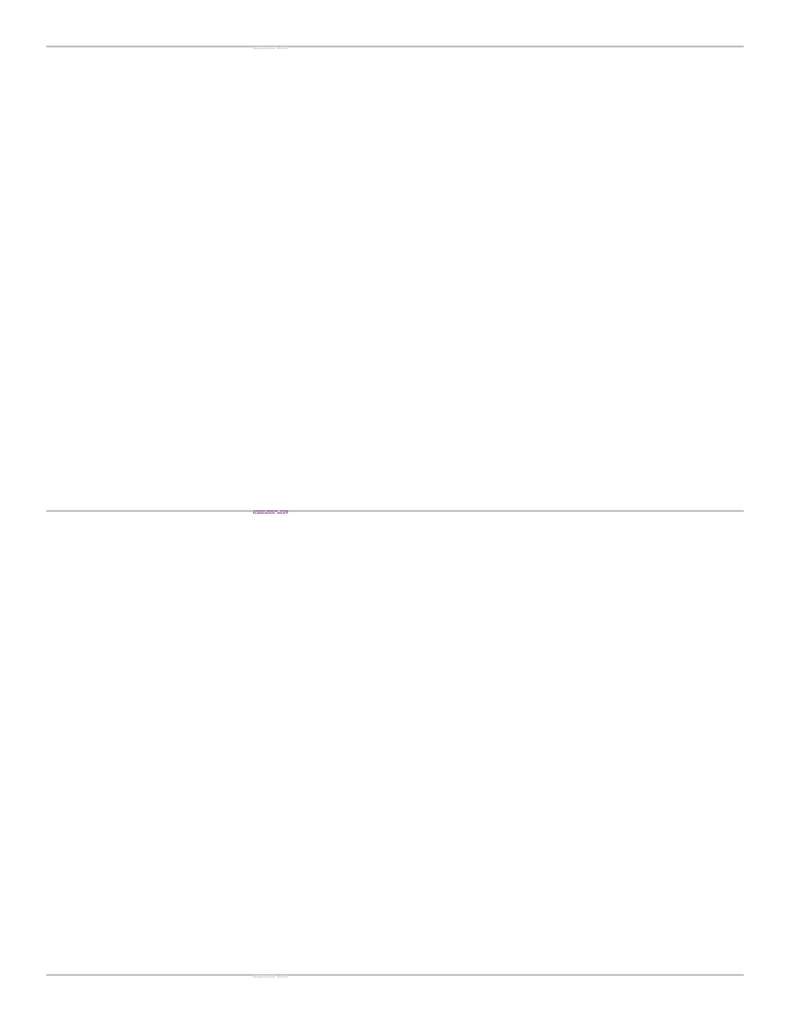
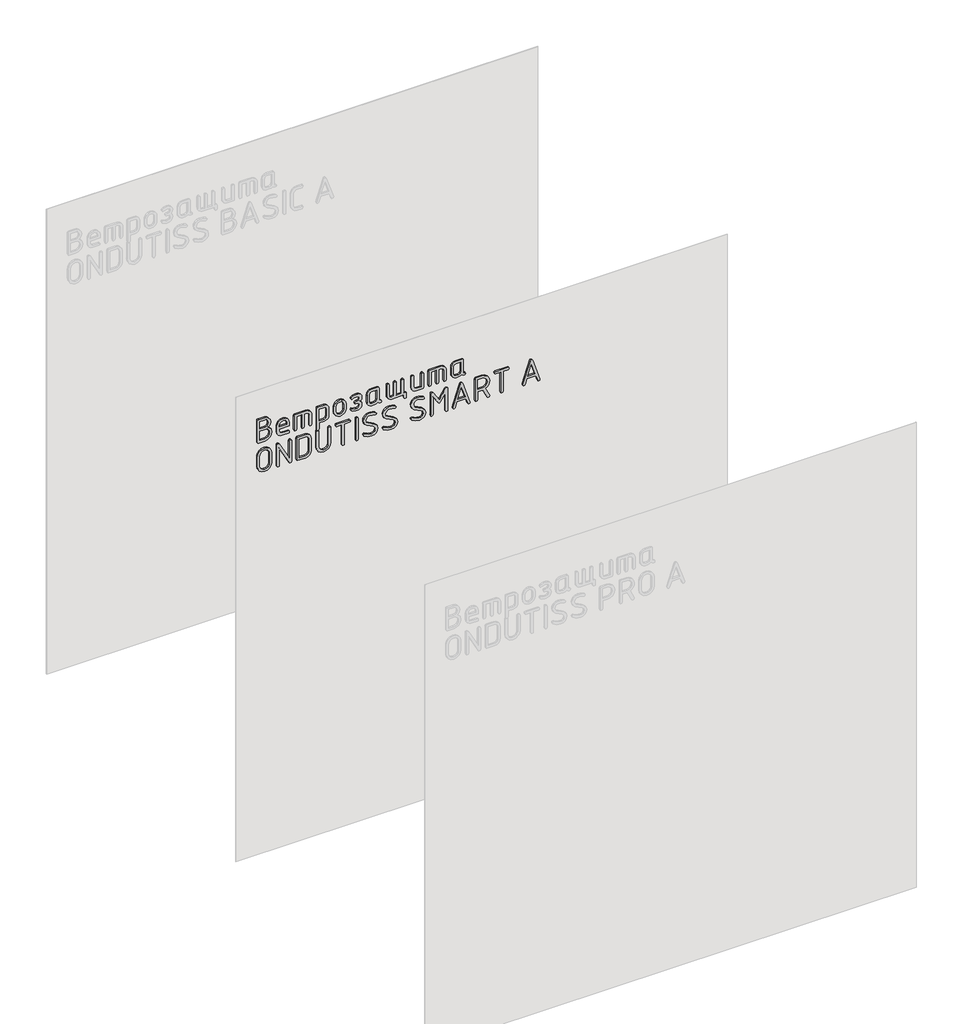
# One storey, part 25 of 42: 1 proxy.
"""IFC4 building model written with IfcOpenShell, lengths in millimetres."""

import ifcopenshell
import ifcopenshell.guid

model = None  # the IFC model being written
_history = None  # IfcOwnerHistory: only IFC2X3 demands one
_inside = {}  # id of a spatial element -> (the spatial element, [elements in it])
_under = {}  # id of a project, library or spatial element -> (it, [spatial elements below it])
_declared = {}  # id of a project -> (the project, [libraries it declares])
_typed = {}  # id of a type object -> (the type object, [elements of that type])
_made_of = {}  # id of a material, layer set ... -> (it, [elements and type objects made of it])


def new_model(schema):
    """Start an empty IFC model of exactly this schema.

    Asked for "IFC4X3", IfcOpenShell would pick the latest addendum, in which some entities
    have other attributes; the version numbers below select the first issue.
    IFC2X3 requires an IfcOwnerHistory on every rooted entity: one is made here for all.
    """
    global model, _history
    if schema == "IFC4X3":
        model = ifcopenshell.file(schema_version=(4, 3, 0, 0))
    else:
        model = ifcopenshell.file(schema=schema)
    _inside.clear()
    _under.clear()
    _declared.clear()
    _typed.clear()
    _made_of.clear()
    _history = None
    if model.schema == "IFC2X3":
        org = make("IfcOrganization", Name="unknown")
        user = make(
            "IfcPersonAndOrganization",
            ThePerson=make("IfcPerson", FamilyName="unknown"),
            TheOrganization=org,
        )
        app = make(
            "IfcApplication",
            ApplicationDeveloper=org,
            Version="unknown",
            ApplicationFullName="unknown",
            ApplicationIdentifier="unknown",
        )
        _history = make(
            "IfcOwnerHistory",
            OwningUser=user,
            OwningApplication=app,
            ChangeAction="ADDED",
            CreationDate=0,
        )
    return model


def make(cls, **values):
    """One entity of the class cls with the attributes given. An attribute that is None is left unset."""
    return model.create_entity(
        cls, **{name: value for name, value in values.items() if value is not None}
    )


def rooted(cls, **values):
    """An entity with a GlobalId (a new one), such as an element, a storey or a relation."""
    return make(cls, GlobalId=ifcopenshell.guid.new(), OwnerHistory=_history, **values)


def si_unit(unit_type, name, prefix=None):
    """IfcSIUnit, for example si_unit("LENGTHUNIT", "METRE", prefix="MILLI")."""
    return make("IfcSIUnit", UnitType=unit_type, Prefix=prefix, Name=name)


def assignment(units):
    """IfcUnitAssignment: the units of a project."""
    return None if units is None else make("IfcUnitAssignment", Units=units)


def point(xyz):
    """IfcCartesianPoint."""
    return None if xyz is None else make("IfcCartesianPoint", Coordinates=xyz)


def direction(xyz):
    """IfcDirection."""
    return None if xyz is None else make("IfcDirection", DirectionRatios=xyz)


def frame(location, z_axis=None, x_axis=None):
    """IfcAxis2Placement3D, a coordinate frame: its origin and axes. An axis left out is left unset."""
    return make(
        "IfcAxis2Placement3D",
        Location=point(location),
        Axis=direction(z_axis),
        RefDirection=direction(x_axis),
    )


def origin():
    """The frame at (0, 0, 0) with its axes left unset."""
    return frame((0.0, 0.0, 0.0))


def place(relative_to, where):
    """IfcLocalPlacement: puts the frame where relative to a parent placement (None: the world)."""
    return make(
        "IfcLocalPlacement", PlacementRelTo=relative_to, RelativePlacement=where
    )


def context(
    kind, dimensions, precision=None, world=None, true_north=None, identifier=None
):
    """IfcGeometricRepresentationContext, for example the 3D "Model" context."""
    return make(
        "IfcGeometricRepresentationContext",
        ContextIdentifier=identifier,
        ContextType=kind,
        CoordinateSpaceDimension=dimensions,
        Precision=precision,
        WorldCoordinateSystem=world,
        TrueNorth=true_north,
    )


def project(units=None, contexts=None):
    """IfcProject with its units and contexts."""
    return rooted(
        "IfcProject",
        Name="project",
        RepresentationContexts=contexts,
        UnitsInContext=assignment(units),
    )


def spatial(cls, under=None, at=None, **own):
    """A site, building, storey or space (cls), placed at a placement, below another one or the project."""
    s = rooted(cls, ObjectPlacement=at, **own)
    if under is not None:
        _under.setdefault(under.id(), (under, []))[1].append(s)
    return s


def polyline(points):
    """IfcPolyline through the points."""
    return make("IfcPolyline", Points=[point(p) for p in points])


def outline(outer, holes=None, kind="AREA"):
    """IfcArbitraryClosedProfileDef: a profile drawn as a closed curve; with holes, ...WithVoids."""
    if holes is None:
        return make("IfcArbitraryClosedProfileDef", ProfileType=kind, OuterCurve=outer)
    return make(
        "IfcArbitraryProfileDefWithVoids",
        ProfileType=kind,
        OuterCurve=outer,
        InnerCurves=holes,
    )


def extrude(swept, where, along, depth):
    """IfcExtrudedAreaSolid: the profile swept, set in the frame where, extruded along a direction by depth."""
    return make(
        "IfcExtrudedAreaSolid",
        SweptArea=swept,
        Position=where,
        ExtrudedDirection=direction(along),
        Depth=depth,
    )


def shape(context_of_items, identifier, shape_type, items):
    """IfcShapeRepresentation: the items that make up one representation, for example the "Body"."""
    return make(
        "IfcShapeRepresentation",
        ContextOfItems=context_of_items,
        RepresentationIdentifier=identifier,
        RepresentationType=shape_type,
        Items=items,
    )


def made_of(thing, what):
    """Note that an element or type object is made of a material, layer set ...; save() writes the relation."""
    if what is not None:
        _made_of.setdefault(what.id(), (what, []))[1].append(thing)
    return thing


def element(
    cls,
    number,
    at=None,
    inside=None,
    cuts=None,
    type_object=None,
    material=None,
    context=None,
    identifier="Body",
    shape_type=None,
    held_by="IfcProductDefinitionShape",
    body=None,
    shapes=None,
    **own,
):
    """One element of the class cls, such as IfcWall. Its Tag is "e" and its number.

    at: its placement. inside: the storey or other place that contains it. cuts: it is an
    opening in that element (IfcRelVoidsElement). A single representation is given by context,
    identifier, shape_type and body (its items); several are given by shapes. held_by: the class
    of the entity that holds the representations. save() writes the other relations.
    """
    e = rooted(cls, Tag="e%d" % number, ObjectPlacement=at, **own)
    if body is not None:
        shapes = [shape(context, identifier, shape_type, body)]
    if shapes is not None:
        e.Representation = make(held_by, Representations=shapes)
    if inside is not None:
        _inside.setdefault(inside.id(), (inside, []))[1].append(e)
    if cuts is not None:
        rooted(
            "IfcRelVoidsElement", RelatingBuildingElement=cuts, RelatedOpeningElement=e
        )
    if type_object is not None:
        _typed.setdefault(type_object.id(), (type_object, []))[1].append(e)
    return made_of(e, material)


def aggregate(whole, parts):
    """IfcRelAggregates: a whole, such as a stair, and the parts it consists of."""
    return rooted("IfcRelAggregates", RelatingObject=whole, RelatedObjects=parts)


def save(model, path):
    """Write the relations noted so far, then the file.

    IfcRelAggregates (storeys below a building ...), IfcRelContainedInSpatialStructure (elements
    in a storey), IfcRelDefinesByType, IfcRelAssociatesMaterial and IfcRelDeclares: one each for
    every whole, place, type object, material and project.
    """
    for whole, parts in _under.values():
        aggregate(whole, parts)
    for where, things in _inside.values():
        rooted(
            "IfcRelContainedInSpatialStructure",
            RelatedElements=things,
            RelatingStructure=where,
        )
    for kind, things in _typed.values():
        rooted("IfcRelDefinesByType", RelatedObjects=things, RelatingType=kind)
    for what, things in _made_of.values():
        rooted("IfcRelAssociatesMaterial", RelatedObjects=things, RelatingMaterial=what)
    for by, libraries in _declared.values():
        rooted("IfcRelDeclares", RelatingContext=by, RelatedDefinitions=libraries)
    model.write(path)


model = new_model("IFC4")

# Units and contexts
model_context = context("Model", 3, world=origin())
ifc_project = project(units=[si_unit("LENGTHUNIT", "METRE", prefix="MILLI")], contexts=[model_context])

# Site, building, storey
site = spatial("IfcSite", under=ifc_project)
building = spatial("IfcBuilding", under=site)
storey = spatial("IfcBuildingStorey", under=building, Name="Этаж 01", Elevation=0.0)

# Proxy
placement = place(None, origin())
element("IfcBuildingElementProxy", 1, Name="150 мм GOST Common", ObjectType="150 мм GOST Common", at=placement, inside=storey, context=model_context, shape_type="SweptSolid", body=[
    extrude(outline(polyline([(2745.2967896, -23242.9801231), (2758.5207699, -23232.3430091), (2775.180588, -23228.7973044), (2790.0625597, -23231.4890436), (2802.4275806, -23239.5642611), (2810.7574896, -23251.5547357), (2813.534126, -23265.9922459), (2813.534126, -23303.1871874), (2811.6464128, -23308.7604359), (2805.9832732, -23310.6181854), (2670.2277293, -23310.6181854), (2664.5645897, -23308.750448), (2662.6768765, -23303.1472358), (2662.6768765, -23265.8723911), (2665.9479139, -23248.6932022), (2675.7610262, -23234.2307223), (2690.1885485, -23224.4026281), (2707.302816, -23221.1265968), (2729.4859431, -23226.5899784), (2745.2967896, -23242.9801231)]), holes=[polyline([(2798.1927108, -23295.2767702), (2798.1927108, -23266.0721491), (2796.5097495, -23257.6373671), (2791.4608658, -23250.5509517), (2784.0248739, -23245.7417776), (2775.180588, -23244.1387196), (2766.3363021, -23245.7417776), (2758.9003101, -23250.5509517), (2753.8514264, -23257.6373671), (2752.1684652, -23266.0721491), (2752.1684652, -23295.2767702), (2798.1927108, -23295.2767702)]), polyline([(2736.82705, -23295.2767702), (2736.82705, -23265.8723911), (2734.6946332, -23254.4811906), (2728.2973829, -23244.997679), (2718.8138714, -23238.6004287), (2707.4226708, -23236.468012), (2696.0314703, -23238.6004287), (2686.5479588, -23244.997679), (2680.1507085, -23254.4811906), (2678.0182917, -23265.8723911), (2678.0182917, -23295.2767702), (2736.82705, -23295.2767702)])]), frame((0.0, -23838.3929597, 0.0), z_axis=(0.0, 1.0, 0.0), x_axis=(0.0, 0.0, 1.0)), (0.0, 0.0, 1.0), 10.0),
    extrude(outline(polyline([(2708.7011221, -23175.1023512), (2708.7011221, -23115.0950449), (2730.7544065, -23115.0950449), (2745.0371042, -23117.8067599), (2756.8827542, -23125.9419048), (2764.8530988, -23138.0322584), (2767.5098804, -23152.6095992), (2764.7731956, -23167.0770731), (2756.5631414, -23179.3172452), (2744.4677939, -23187.6621361), (2730.0752292, -23190.4437664), (2692.6405781, -23190.4437664), (2681.004674, -23188.2264525), (2671.3463742, -23181.5745107), (2664.8442509, -23171.7763803), (2662.6768765, -23160.1205004), (2662.6768765, -23122.6059461), (2664.5945534, -23116.9727702), (2670.3475841, -23115.0950449), (2676.1006148, -23116.9727702), (2678.0182917, -23122.6059461), (2678.0182917, -23160.1205004), (2682.5527986, -23170.6677234), (2693.3597069, -23175.1023512), (2708.7011221, -23175.1023512)]), holes=[polyline([(2754.0461905, -23152.6095992), (2752.3981869, -23143.9800532), (2747.4541761, -23136.7088616), (2740.1829845, -23131.7648508), (2731.5534385, -23130.1168472), (2724.0425373, -23130.1168472), (2724.0425373, -23175.1023512), (2731.5534385, -23175.1023512), (2740.1829845, -23173.4543476), (2747.4541761, -23168.5103368), (2752.3981869, -23161.2391453), (2754.0461905, -23152.6095992)])]), frame((0.0, -23838.3929597, 0.0), z_axis=(0.0, 1.0, 0.0), x_axis=(0.0, 0.0, 1.0)), (0.0, 0.0, 1.0), 10.0),
    extrude(outline(polyline([(2767.5098804, -23077.9400549), (2765.642143, -23083.6930856), (2760.0389308, -23085.6107625), (2670.1478261, -23085.6107625), (2664.5446139, -23083.6930856), (2662.6768765, -23077.9400549), (2664.5446139, -23072.1870242), (2670.1478261, -23070.2693473), (2752.1684652, -23070.2693473), (2752.1684652, -23039.5865169), (2670.1478261, -23039.5865169), (2664.5446139, -23037.66884), (2662.6768765, -23031.9158093), (2664.5446139, -23026.1627786), (2670.1478261, -23024.2451017), (2752.1684652, -23024.2451017), (2752.1684652, -23008.9036865), (2747.8736679, -22997.9769234), (2737.2665176, -22993.5622713), (2670.1478261, -22993.5622713), (2664.5446139, -22991.6445944), (2662.6768765, -22985.8915637), (2664.5446139, -22980.138533), (2670.1478261, -22978.2208561), (2737.5461788, -22978.2208561), (2749.1071737, -22980.4581459), (2758.7804553, -22987.170015), (2765.3275241, -22997.0780123), (2767.5098804, -23008.9036865), (2767.5098804, -23077.9400549)])), frame((0.0, -23838.3929597, 0.0), z_axis=(0.0, 1.0, 0.0), x_axis=(0.0, 0.0, 1.0)), (0.0, 0.0, 1.0), 10.0),
    extrude(outline(polyline([(2759.9590276, -22947.5380258), (2624.2034837, -22947.5380258), (2618.5403441, -22945.6203489), (2616.6526309, -22939.8673182), (2618.5703078, -22934.1142875), (2624.3233385, -22932.1966106), (2662.6768765, -22932.1966106), (2662.6768765, -22902.7922314), (2664.8592328, -22891.4010309), (2671.4063016, -22881.9175193), (2681.0795832, -22875.5202691), (2692.6405781, -22873.3878523), (2737.5461788, -22873.3878523), (2749.1820829, -22875.5352509), (2758.8403827, -22881.9774467), (2765.342506, -22891.5358675), (2767.5098804, -22903.031941), (2767.5098804, -22940.1070278), (2765.6221672, -22945.6802763), (2759.9590276, -22947.5380258)]), holes=[polyline([(2752.1684652, -22932.1966106), (2752.1684652, -22903.2316991), (2747.8936437, -22892.9042099), (2737.3464208, -22888.7292675), (2692.8403361, -22888.7292675), (2682.3530405, -22892.9641373), (2678.0182917, -22903.2316991), (2678.0182917, -22932.1966106), (2752.1684652, -22932.1966106)])]), frame((0.0, -23838.3929597, 0.0), z_axis=(0.0, 1.0, 0.0), x_axis=(0.0, 0.0, 1.0)), (0.0, 0.0, 1.0), 10.0),
    extrude(outline(polyline([(2700.1115277, -22842.7050219), (2685.718963, -22839.9933069), (2673.6236155, -22831.8581619), (2665.4135613, -22819.8776753), (2662.6768765, -22805.6299352), (2665.4135613, -22791.3821951), (2673.6236155, -22779.4017084), (2685.718963, -22771.2665634), (2700.1115277, -22768.5548485), (2730.0752292, -22768.5548485), (2744.6176124, -22771.2365997), (2756.6829962, -22779.2818536), (2764.8031593, -22791.2323766), (2767.5098804, -22805.6299352), (2764.7731956, -22819.8776753), (2756.5631414, -22831.8581619), (2744.4677939, -22839.9933069), (2730.0752292, -22842.7050219), (2700.1115277, -22842.7050219)]), holes=[polyline([(2700.5509953, -22783.8962636), (2691.8914855, -22785.4893338), (2684.6103061, -22790.2685442), (2679.6662953, -22797.2950322), (2678.0182917, -22805.6299352), (2679.6563074, -22814.0397474), (2684.5703545, -22821.0512536), (2691.841546, -22825.7855184), (2700.5509953, -22827.3636067), (2730.5546484, -22827.3636067), (2739.1841945, -22825.7705366), (2746.4553861, -22820.9913262), (2751.3993968, -22813.9648382), (2753.0474004, -22805.6299352), (2751.3993968, -22797.2950322), (2746.4553861, -22790.2685442), (2739.1841945, -22785.4893338), (2730.5546484, -22783.8962636), (2700.5509953, -22783.8962636)])]), frame((0.0, -23838.3929597, 0.0), z_axis=(0.0, 1.0, 0.0), x_axis=(0.0, 0.0, 1.0)), (0.0, 0.0, 1.0), 10.0),
    extrude(outline(polyline([(2693.3996585, -22686.7339674), (2682.5128469, -22691.1086678), (2678.0182917, -22701.7557698), (2678.0182917, -22709.266671), (2681.8336697, -22724.3084492), (2685.6490477, -22733.4373902), (2682.9323388, -22737.5524052), (2677.6587273, -22739.2703241), (2671.7059386, -22736.2240145), (2666.6320851, -22727.0850855), (2662.6768765, -22709.266671), (2662.6768765, -22701.7557698), (2664.8991844, -22690.0699262), (2671.566108, -22680.2618079), (2681.4591234, -22673.6098661), (2693.3597069, -22671.3925522), (2707.1829612, -22674.0393458), (2716.3718297, -22681.9797267), (2725.0113637, -22674.0393458), (2738.3052592, -22671.3925522), (2749.6215505, -22673.6098661), (2759.0401407, -22680.2618079), (2765.3924455, -22690.0699262), (2767.5098804, -22701.7557698), (2767.5098804, -22709.266671), (2763.434817, -22726.9652307), (2758.2710724, -22736.1940508), (2752.5280296, -22739.2703241), (2747.2743939, -22737.5524052), (2744.5377092, -22733.557245), (2748.3530872, -22724.6480378), (2752.1684652, -22709.266671), (2752.1684652, -22701.7557698), (2748.1133776, -22691.0687162), (2738.1055012, -22686.7339674), (2728.0976249, -22690.7690792), (2724.0425373, -22702.434947), (2724.0425373, -22704.8320431), (2724.0425373, -22707.1092845), (2721.7852718, -22714.5203066), (2716.3318781, -22716.7376206), (2710.8984602, -22714.580234), (2708.7011221, -22709.266671), (2708.7011221, -22699.5983833), (2704.7459135, -22690.7291276), (2693.3996585, -22686.7339674)])), frame((0.0, -23838.3929597, 0.0), z_axis=(0.0, 1.0, 0.0), x_axis=(0.0, 0.0, 1.0)), (0.0, 0.0, 1.0), 10.0),
    extrude(outline(polyline([(2670.1478261, -22551.5776976), (2675.781002, -22553.4504289), (2677.6587273, -22559.068623), (2679.5264647, -22564.686817), (2685.1296769, -22566.5595483), (2760.0389308, -22566.5595483), (2765.642143, -22568.4172978), (2767.5098804, -22573.9905463), (2767.5098804, -22611.0656331), (2765.342506, -22622.5617066), (2758.8403827, -22632.1201274), (2749.1820829, -22638.5623232), (2737.5461788, -22640.7097218), (2692.6405781, -22640.7097218), (2681.004674, -22638.5623232), (2671.3463742, -22632.1201274), (2664.8442509, -22622.5617066), (2662.6768765, -22611.0656331), (2662.6768765, -22596.2036371), (2664.6644687, -22585.2269344), (2670.6272453, -22576.1079812), (2664.6644687, -22568.5271648), (2662.6768765, -22559.0486472), (2664.5446139, -22553.445435), (2670.1478261, -22551.5776976)]), holes=[polyline([(2752.1684652, -22581.9009635), (2692.8403361, -22581.9009635), (2682.3530405, -22586.1358334), (2678.0182917, -22596.4033951), (2678.0182917, -22610.8658751), (2682.3929921, -22621.0934852), (2692.8403361, -22625.3683066), (2737.3464208, -22625.3683066), (2747.8337163, -22621.1334368), (2752.1684652, -22610.8658751), (2752.1684652, -22581.9009635)])]), frame((0.0, -23838.3929597, 0.0), z_axis=(0.0, 1.0, 0.0), x_axis=(0.0, 0.0, 1.0)), (0.0, 0.0, 1.0), 10.0),
    extrude(outline(polyline([(2662.6768765, -22415.7022989), (2647.3354613, -22415.7022989), (2641.5824306, -22413.784622), (2639.6647537, -22408.0315913), (2641.5824306, -22402.2785606), (2647.3354613, -22400.3608837), (2670.3475841, -22400.3608837), (2676.1006148, -22402.2785606), (2678.0182917, -22408.0315913), (2678.0182917, -22415.7022989), (2760.0389308, -22415.7022989), (2765.642143, -22417.6199758), (2767.5098804, -22423.3730065), (2765.642143, -22429.1260372), (2760.0389308, -22431.0437141), (2678.0182917, -22431.0437141), (2678.0182917, -22461.7265445), (2760.0389308, -22461.7265445), (2765.642143, -22463.6442214), (2767.5098804, -22469.3972521), (2765.642143, -22475.1502828), (2760.0389308, -22477.0679597), (2678.0182917, -22477.0679597), (2678.0182917, -22491.1309236), (2682.4329437, -22501.0389209), (2692.9202393, -22505.1938876), (2760.0389308, -22505.1938876), (2765.642143, -22507.1115645), (2767.5098804, -22512.8645952), (2765.642143, -22518.6176259), (2760.0389308, -22520.5353028), (2692.6405781, -22520.5353028), (2681.0795832, -22518.3679283), (2671.4063016, -22511.8658051), (2664.8592328, -22502.2075053), (2662.6768765, -22490.5716012), (2662.6768765, -22415.7022989)])), frame((0.0, -23838.3929597, 0.0), z_axis=(0.0, 1.0, 0.0), x_axis=(0.0, 0.0, 1.0)), (0.0, 0.0, 1.0), 10.0),
    extrude(outline(polyline([(2760.0389308, -22295.5278799), (2765.642143, -22297.4455568), (2767.5098804, -22303.1985875), (2765.642143, -22308.9516182), (2760.0389308, -22310.8692951), (2678.0182917, -22310.8692951), (2678.0182917, -22339.8342066), (2682.4329437, -22350.0618167), (2692.9202393, -22354.3366381), (2760.0389308, -22354.3366381), (2765.642143, -22356.254315), (2767.5098804, -22362.0073457), (2765.642143, -22367.7603764), (2760.0389308, -22369.6780533), (2692.6405781, -22369.6780533), (2681.004674, -22367.5306547), (2671.3463742, -22361.0884589), (2664.8442509, -22351.5300381), (2662.6768765, -22340.0339646), (2662.6768765, -22302.9588778), (2664.5446139, -22297.3856294), (2670.1478261, -22295.5278799), (2760.0389308, -22295.5278799)])), frame((0.0, -23838.3929597, 0.0), z_axis=(0.0, 1.0, 0.0), x_axis=(0.0, 0.0, 1.0)), (0.0, 0.0, 1.0), 10.0),
    extrude(outline(polyline([(2767.5098804, -22257.1743419), (2765.642143, -22262.9273726), (2760.0389308, -22264.8450495), (2670.1478261, -22264.8450495), (2664.5446139, -22262.9273726), (2662.6768765, -22257.1743419), (2664.5446139, -22251.4213112), (2670.1478261, -22249.5036343), (2752.1684652, -22249.5036343), (2752.1684652, -22218.8208039), (2670.1478261, -22218.8208039), (2664.5446139, -22216.903127), (2662.6768765, -22211.1500963), (2664.5446139, -22205.3970656), (2670.1478261, -22203.4793887), (2752.1684652, -22203.4793887), (2752.1684652, -22188.1379735), (2747.8736679, -22177.2112103), (2737.2665176, -22172.7965583), (2670.1478261, -22172.7965583), (2664.5446139, -22170.8788814), (2662.6768765, -22165.1258507), (2664.5446139, -22159.37282), (2670.1478261, -22157.4551431), (2737.5461788, -22157.4551431), (2749.1071737, -22159.6924328), (2758.7804553, -22166.4043019), (2765.3275241, -22176.3122993), (2767.5098804, -22188.1379735), (2767.5098804, -22257.1743419)])), frame((0.0, -23838.3929597, 0.0), z_axis=(0.0, 1.0, 0.0), x_axis=(0.0, 0.0, 1.0)), (0.0, 0.0, 1.0), 10.0),
    extrude(outline(polyline([(2670.1478261, -22037.6402885), (2675.781002, -22039.5130198), (2677.6587273, -22045.1312138), (2679.5264647, -22050.7494079), (2685.1296769, -22052.6221392), (2760.0389308, -22052.6221392), (2765.642143, -22054.4798887), (2767.5098804, -22060.0531372), (2767.5098804, -22097.1282239), (2765.342506, -22108.6242974), (2758.8403827, -22118.1827182), (2749.1820829, -22124.6249141), (2737.5461788, -22126.7723127), (2692.6405781, -22126.7723127), (2681.004674, -22124.6249141), (2671.3463742, -22118.1827182), (2664.8442509, -22108.6242974), (2662.6768765, -22097.1282239), (2662.6768765, -22082.266228), (2664.6644687, -22071.2895253), (2670.6272453, -22062.1705721), (2664.6644687, -22054.5897556), (2662.6768765, -22045.111238), (2664.5446139, -22039.5080259), (2670.1478261, -22037.6402885)]), holes=[polyline([(2752.1684652, -22067.9635544), (2692.8403361, -22067.9635544), (2682.3530405, -22072.1984243), (2678.0182917, -22082.465986), (2678.0182917, -22096.9284659), (2682.3929921, -22107.1560761), (2692.8403361, -22111.4308975), (2737.3464208, -22111.4308975), (2747.8337163, -22107.1960277), (2752.1684652, -22096.9284659), (2752.1684652, -22067.9635544)])]), frame((0.0, -23838.3929597, 0.0), z_axis=(0.0, 1.0, 0.0), x_axis=(0.0, 0.0, 1.0)), (0.0, 0.0, 1.0), 10.0),
    extrude(outline(polyline([(2511.9177961, -23221.1265968), (2572.2447152, -23221.1265968), (2589.6885835, -23224.3876463), (2604.3058759, -23234.1707949), (2614.2088792, -23248.618293), (2617.5098804, -23265.8723911), (2614.1938974, -23283.05158), (2604.2459485, -23297.5140599), (2589.6136742, -23307.3421541), (2572.2447152, -23310.6181854), (2511.9177961, -23310.6181854), (2494.5488371, -23307.3421541), (2479.9165628, -23297.5140599), (2469.9686139, -23283.05158), (2466.6526309, -23265.8723911), (2469.9686139, -23248.6932022), (2479.9165628, -23234.2307223), (2494.5488371, -23224.4026281), (2511.9177961, -23221.1265968)]), holes=[polyline([(2512.0376509, -23236.468012), (2500.3917589, -23238.6004287), (2490.7034954, -23244.997679), (2484.1714084, -23254.4811906), (2481.9940461, -23265.8723911), (2484.1714084, -23277.2635916), (2490.7034954, -23286.7471032), (2500.3917589, -23293.1443535), (2512.0376509, -23295.2767702), (2572.1248604, -23295.2767702), (2583.7707524, -23293.1443535), (2593.4590159, -23286.7471032), (2599.9911029, -23277.2635916), (2602.1684652, -23265.8723911), (2599.9911029, -23254.4811906), (2593.4590159, -23244.997679), (2583.7707524, -23238.6004287), (2572.1248604, -23236.468012), (2512.0376509, -23236.468012)])]), frame((0.0, -23838.3929597, 0.0), z_axis=(0.0, 1.0, 0.0), x_axis=(0.0, 0.0, 1.0)), (0.0, 0.0, 1.0), 10.0),
    extrude(outline(polyline([(2503.3282016, -23116.2935929), (2613.0353009, -23175.1023512), (2617.5098804, -23182.453446), (2615.6221672, -23188.4461863), (2609.9590276, -23190.4437664), (2474.2034837, -23190.4437664), (2468.5403441, -23188.5260895), (2466.6526309, -23182.7730588), (2468.5403441, -23177.0200281), (2474.2034837, -23175.1023512), (2580.9541645, -23175.1023512), (2470.4080815, -23116.2935929), (2466.6526309, -23109.1023046), (2468.5403441, -23102.9897094), (2474.2034837, -23100.9521777), (2609.9590276, -23100.9521777), (2615.6221672, -23102.8698546), (2617.5098804, -23108.6228853), (2615.6221672, -23114.375916), (2609.9590276, -23116.2935929), (2503.3282016, -23116.2935929)])), frame((0.0, -23838.3929597, 0.0), z_axis=(0.0, 1.0, 0.0), x_axis=(0.0, 0.0, 1.0)), (0.0, 0.0, 1.0), 10.0),
    extrude(outline(polyline([(2609.9590276, -23070.2693473), (2474.2034837, -23070.2693473), (2468.5403441, -23068.4016099), (2466.6526309, -23062.7983977), (2466.6526309, -23018.0526034), (2469.4092915, -23003.7299541), (2477.6792731, -22991.684546), (2489.8645117, -22983.5044555), (2504.3669433, -22980.7777587), (2579.795568, -22980.7777587), (2594.4478181, -22983.4744918), (2606.603093, -22991.5646912), (2614.7831835, -23003.5801356), (2617.5098804, -23018.0526034), (2617.5098804, -23062.7983977), (2615.6221672, -23068.4016099), (2609.9590276, -23070.2693473)]), holes=[polyline([(2602.1684652, -23054.9279321), (2602.1684652, -23018.1724582), (2600.5204616, -23009.6977246), (2595.5764508, -23002.5713576), (2588.2952713, -22997.7322198), (2579.6357616, -22996.1191739), (2504.5267497, -22996.1191739), (2495.8672399, -22997.7322198), (2488.5860605, -23002.5713576), (2483.6420497, -23009.6977246), (2481.9940461, -23018.1724582), (2481.9940461, -23054.9279321), (2602.1684652, -23054.9279321)])]), frame((0.0, -23838.3929597, 0.0), z_axis=(0.0, 1.0, 0.0), x_axis=(0.0, 0.0, 1.0)), (0.0, 0.0, 1.0), 10.0),
    extrude(outline(polyline([(2609.9590276, -22860.6033396), (2615.6221672, -22862.5210165), (2617.5098804, -22868.2740472), (2615.6321551, -22874.0270779), (2609.9989792, -22875.9447548), (2512.1175541, -22875.9447548), (2500.4367044, -22878.0771716), (2490.7234712, -22884.4744219), (2484.1764024, -22893.9579334), (2481.9940461, -22905.349134), (2484.1764024, -22916.7403345), (2490.7234712, -22926.223846), (2500.4367044, -22932.6210963), (2512.1175541, -22934.7535131), (2609.9989792, -22934.7535131), (2615.6321551, -22936.67119), (2617.5098804, -22942.4242207), (2615.6221672, -22948.1772514), (2609.9590276, -22950.0949283), (2511.9177961, -22950.0949283), (2494.5488371, -22946.8188969), (2479.9165628, -22936.9908028), (2469.9686139, -22922.5283229), (2466.6526309, -22905.349134), (2469.9686139, -22888.1699451), (2479.9165628, -22873.7074651), (2494.5488371, -22863.879371), (2511.9177961, -22860.6033396), (2609.9590276, -22860.6033396)])), frame((0.0, -23838.3929597, 0.0), z_axis=(0.0, 1.0, 0.0), x_axis=(0.0, 0.0, 1.0)), (0.0, 0.0, 1.0), 10.0),
    extrude(outline(polyline([(2609.8391728, -22831.6384281), (2604.0861421, -22829.7607028), (2602.1684652, -22824.1275269), (2602.1684652, -22794.1238738), (2474.1635321, -22794.1238738), (2468.5303562, -22792.2061969), (2466.6526309, -22786.4531662), (2468.5303562, -22780.7001355), (2474.1635321, -22778.7824586), (2602.1684652, -22778.7824586), (2602.1684652, -22748.7788054), (2604.0861421, -22743.1755932), (2609.8391728, -22741.3078558), (2615.5922035, -22743.1755932), (2617.5098804, -22748.7788054), (2617.5098804, -22824.1275269), (2615.5922035, -22829.7607028), (2609.8391728, -22831.6384281)])), frame((0.0, -23838.3929597, 0.0), z_axis=(0.0, 1.0, 0.0), x_axis=(0.0, 0.0, 1.0)), (0.0, 0.0, 1.0), 10.0),
    extrude(outline(polyline([(2466.6526309, -22702.0753826), (2468.5403441, -22696.3223519), (2474.2034837, -22694.404675), (2609.9590276, -22694.404675), (2615.6221672, -22696.3223519), (2617.5098804, -22702.0753826), (2615.6221672, -22707.8284133), (2609.9590276, -22709.7460902), (2474.2034837, -22709.7460902), (2468.5403441, -22707.8284133), (2466.6526309, -22702.0753826)])), frame((0.0, -23838.3929597, 0.0), z_axis=(0.0, 1.0, 0.0), x_axis=(0.0, 0.0, 1.0)), (0.0, 0.0, 1.0), 10.0),
    extrude(outline(polyline([(2504.2870401, -22574.2302559), (2524.1429863, -22579.3140973), (2537.8463858, -22594.5656214), (2559.5001542, -22636.2351424), (2567.6602689, -22645.3441076), (2579.59581, -22648.3804294), (2588.2603137, -22646.7673835), (2595.556475, -22641.9282457), (2600.5154676, -22634.8018786), (2602.1684652, -22626.3271451), (2600.4904979, -22609.567448), (2595.456596, -22592.6878961), (2594.657564, -22589.5716711), (2596.8748779, -22584.2780839), (2602.1684652, -22582.06077), (2609.1599955, -22586.4953978), (2615.4224092, -22603.4648408), (2617.5098804, -22626.6467579), (2614.7432319, -22640.8195887), (2606.4432866, -22652.8150572), (2594.2680359, -22660.9951478), (2579.8754712, -22663.7218446), (2560.0494887, -22658.6979306), (2546.4359803, -22643.6261888), (2524.7822119, -22601.9167162), (2516.5322061, -22592.6579324), (2504.5667013, -22589.5716711), (2495.9021976, -22591.1996989), (2488.6060363, -22596.0837823), (2483.6470437, -22603.2750707), (2481.9940461, -22611.8247135), (2485.1901743, -22631.6007565), (2495.657494, -22652.0559768), (2497.0158485, -22656.2908466), (2494.7985346, -22661.5245065), (2489.5049473, -22663.7218446), (2483.3923522, -22660.4458132), (2470.8375612, -22637.5235815), (2466.6526309, -22611.5051007), (2469.4192794, -22597.2573606), (2477.7192247, -22585.1969707), (2489.8944754, -22576.9719346), (2504.2870401, -22574.2302559)])), frame((0.0, -23838.3929597, 0.0), z_axis=(0.0, 1.0, 0.0), x_axis=(0.0, 0.0, 1.0)), (0.0, 0.0, 1.0), 10.0),
    extrude(outline(polyline([(2504.2870401, -22454.0558369), (2524.1429863, -22459.1396783), (2537.8463858, -22474.3912024), (2559.5001542, -22516.0607233), (2567.6602689, -22525.1696886), (2579.59581, -22528.2060104), (2588.2603137, -22526.5929644), (2595.556475, -22521.7538266), (2600.5154676, -22514.6274596), (2602.1684652, -22506.152726), (2600.4904979, -22489.3930289), (2595.456596, -22472.5134771), (2594.657564, -22469.3972521), (2596.8748779, -22464.1036648), (2602.1684652, -22461.8863509), (2609.1599955, -22466.3209787), (2615.4224092, -22483.2904217), (2617.5098804, -22506.4723388), (2614.7432319, -22520.6451697), (2606.4432866, -22532.6406382), (2594.2680359, -22540.8207287), (2579.8754712, -22543.5474256), (2560.0494887, -22538.5235116), (2546.4359803, -22523.4517697), (2524.7822119, -22481.7422971), (2516.5322061, -22472.4835134), (2504.5667013, -22469.3972521), (2495.9021976, -22471.0252799), (2488.6060363, -22475.9093632), (2483.6470437, -22483.1006516), (2481.9940461, -22491.6502945), (2485.1901743, -22511.4263375), (2495.657494, -22531.8815577), (2497.0158485, -22536.1164276), (2494.7985346, -22541.3500874), (2489.5049473, -22543.5474256), (2483.3923522, -22540.2713942), (2470.8375612, -22517.3491625), (2466.6526309, -22491.3306816), (2469.4192794, -22477.0829415), (2477.7192247, -22465.0225517), (2489.8944754, -22456.7975156), (2504.2870401, -22454.0558369)])), frame((0.0, -23838.3929597, 0.0), z_axis=(0.0, 1.0, 0.0), x_axis=(0.0, 0.0, 1.0)), (0.0, 0.0, 1.0), 10.0),
    extrude(outline(polyline([(2504.2870401, -22282.7433672), (2524.1429863, -22287.8272086), (2537.8463858, -22303.0787327), (2559.5001542, -22344.7482536), (2567.6602689, -22353.8572189), (2579.59581, -22356.8935406), (2588.2603137, -22355.2804947), (2595.556475, -22350.4413569), (2600.5154676, -22343.3149899), (2602.1684652, -22334.8402563), (2600.4904979, -22318.0805592), (2595.456596, -22301.2010074), (2594.657564, -22298.0847824), (2596.8748779, -22292.7911951), (2602.1684652, -22290.5738812), (2609.1599955, -22295.008509), (2615.4224092, -22311.977952), (2617.5098804, -22335.1598691), (2614.7432319, -22349.3327), (2606.4432866, -22361.3281685), (2594.2680359, -22369.508259), (2579.8754712, -22372.2349558), (2560.0494887, -22367.2110419), (2546.4359803, -22352.1393), (2524.7822119, -22310.4298274), (2516.5322061, -22301.1710437), (2504.5667013, -22298.0847824), (2495.9021976, -22299.7128102), (2488.6060363, -22304.5968935), (2483.6470437, -22311.7881819), (2481.9940461, -22320.3378247), (2485.1901743, -22340.1138678), (2495.657494, -22360.569088), (2497.0158485, -22364.8039579), (2494.7985346, -22370.0376177), (2489.5049473, -22372.2349558), (2483.3923522, -22368.9589245), (2470.8375612, -22346.0366928), (2466.6526309, -22320.0182119), (2469.4192794, -22305.7704718), (2477.7192247, -22293.710082), (2489.8944754, -22285.4850459), (2504.2870401, -22282.7433672)])), frame((0.0, -23838.3929597, 0.0), z_axis=(0.0, 1.0, 0.0), x_axis=(0.0, 0.0, 1.0)), (0.0, 0.0, 1.0), 10.0),
    extrude(outline(polyline([(2617.5098804, -22155.5374662), (2614.1938974, -22162.5689481), (2555.7846552, -22199.7638897), (2613.7544298, -22236.7191216), (2617.5098804, -22243.91041), (2615.6221672, -22250.0230051), (2609.9590276, -22252.0605368), (2474.2034837, -22252.0605368), (2468.5403441, -22250.1428599), (2466.6526309, -22244.3898292), (2468.5403441, -22238.6367985), (2474.2034837, -22236.7191216), (2585.1490827, -22236.7191216), (2539.3245951, -22206.5956136), (2534.8100641, -22199.6440349), (2539.3245951, -22192.7723593), (2585.1490827, -22162.5689481), (2474.2034837, -22162.5689481), (2468.5403441, -22160.6512712), (2466.6526309, -22154.8982405), (2468.5403441, -22149.1452099), (2474.2034837, -22147.227533), (2609.9590276, -22147.227533), (2615.6221672, -22149.3050163), (2617.5098804, -22155.5374662)])), frame((0.0, -23838.3929597, 0.0), z_axis=(0.0, 1.0, 0.0), x_axis=(0.0, 0.0, 1.0)), (0.0, 0.0, 1.0), 10.0),
    extrude(outline(polyline([(2474.2034837, -22011.8715051), (2476.6005798, -22012.2310695), (2611.6769465, -22057.0168155), (2616.0516469, -22059.8134276), (2617.5098804, -22064.3679102), (2615.9917195, -22068.9823203), (2611.4372369, -22071.8788114), (2476.6005798, -22116.5447026), (2474.2034837, -22116.904267), (2468.5403441, -22115.0265417), (2466.6526309, -22109.3933658), (2467.9610459, -22104.8688468), (2471.8862908, -22102.242029), (2505.0061689, -22091.4151448), (2505.0061689, -22037.3206756), (2471.8862908, -22026.5337431), (2467.9610459, -22023.9069252), (2466.6526309, -22019.3824063), (2468.5403441, -22013.7492304), (2474.2034837, -22011.8715051)]), holes=[polyline([(2586.5074372, -22064.3679102), (2520.3475841, -22042.3545775), (2520.3475841, -22086.4211946), (2586.5074372, -22064.3679102)])]), frame((0.0, -23838.3929597, 0.0), z_axis=(0.0, 1.0, 0.0), x_axis=(0.0, 0.0, 1.0)), (0.0, 0.0, 1.0), 10.0),
    extrude(outline(polyline([(2530.1756782, -21917.705579), (2536.8800565, -21906.256948), (2546.1263554, -21898.0793545), (2557.9145749, -21893.1727984), (2572.2447152, -21891.5372797), (2589.6885835, -21894.7983292), (2604.3058759, -21904.5814777), (2614.2088792, -21919.0289758), (2617.5098804, -21936.283074), (2617.5098804, -21973.5579187), (2615.6221672, -21979.1611309), (2609.9590276, -21981.0288683), (2474.2034837, -21981.0288683), (2468.5403441, -21979.1111914), (2466.6526309, -21973.3581607), (2468.4904046, -21967.60513), (2474.0037257, -21965.6874531), (2525.4613892, -21965.6874531), (2525.4613892, -21936.6026868), (2525.581244, -21933.9658811), (2470.7676459, -21906.8786949), (2466.6526309, -21899.5675517), (2468.9298722, -21893.9743274), (2474.2034837, -21891.5372797), (2477.6393215, -21891.5372797), (2530.1756782, -21917.705579)]), holes=[polyline([(2602.1684652, -21965.6874531), (2602.1684652, -21936.283074), (2599.9461573, -21924.8918734), (2593.2792337, -21915.4083619), (2583.3862182, -21909.0111116), (2571.4856348, -21906.8786949), (2559.5850513, -21909.0111116), (2549.6920358, -21915.4083619), (2543.0251122, -21924.8918734), (2540.8028044, -21936.283074), (2540.8028044, -21965.6874531), (2602.1684652, -21965.6874531)])]), frame((0.0, -23838.3929597, 0.0), z_axis=(0.0, 1.0, 0.0), x_axis=(0.0, 0.0, 1.0)), (0.0, 0.0, 1.0), 10.0),
    extrude(outline(polyline([(2609.8391728, -21862.5723682), (2604.0861421, -21860.6946429), (2602.1684652, -21855.061467), (2602.1684652, -21825.0578138), (2474.1635321, -21825.0578138), (2468.5303562, -21823.1401369), (2466.6526309, -21817.3871062), (2468.5303562, -21811.6340755), (2474.1635321, -21809.7163986), (2602.1684652, -21809.7163986), (2602.1684652, -21779.7127454), (2604.0861421, -21774.1095333), (2609.8391728, -21772.2417959), (2615.5922035, -21774.1095333), (2617.5098804, -21779.7127454), (2617.5098804, -21855.061467), (2615.5922035, -21860.6946429), (2609.8391728, -21862.5723682)])), frame((0.0, -23838.3929597, 0.0), z_axis=(0.0, 1.0, 0.0), x_axis=(0.0, 0.0, 1.0)), (0.0, 0.0, 1.0), 10.0),
    extrude(outline(polyline([(2474.2034837, -21584.8687821), (2476.6005798, -21585.2283465), (2611.6769465, -21630.0140925), (2616.0516469, -21632.8107046), (2617.5098804, -21637.3651872), (2615.9917195, -21641.9795973), (2611.4372369, -21644.8760884), (2476.6005798, -21689.5419796), (2474.2034837, -21689.901544), (2468.5403441, -21688.0238187), (2466.6526309, -21682.3906428), (2467.9610459, -21677.8661239), (2471.8862908, -21675.239306), (2505.0061689, -21664.4124219), (2505.0061689, -21610.3179526), (2471.8862908, -21599.5310201), (2467.9610459, -21596.9042022), (2466.6526309, -21592.3796833), (2468.5403441, -21586.7465074), (2474.2034837, -21584.8687821)]), holes=[polyline([(2586.5074372, -21637.3651872), (2520.3475841, -21615.3518545), (2520.3475841, -21659.4184716), (2586.5074372, -21637.3651872)])]), frame((0.0, -23838.3929597, 0.0), z_axis=(0.0, 1.0, 0.0), x_axis=(0.0, 0.0, 1.0)), (0.0, 0.0, 1.0), 10.0),
])

save(model, "model.ifc")
